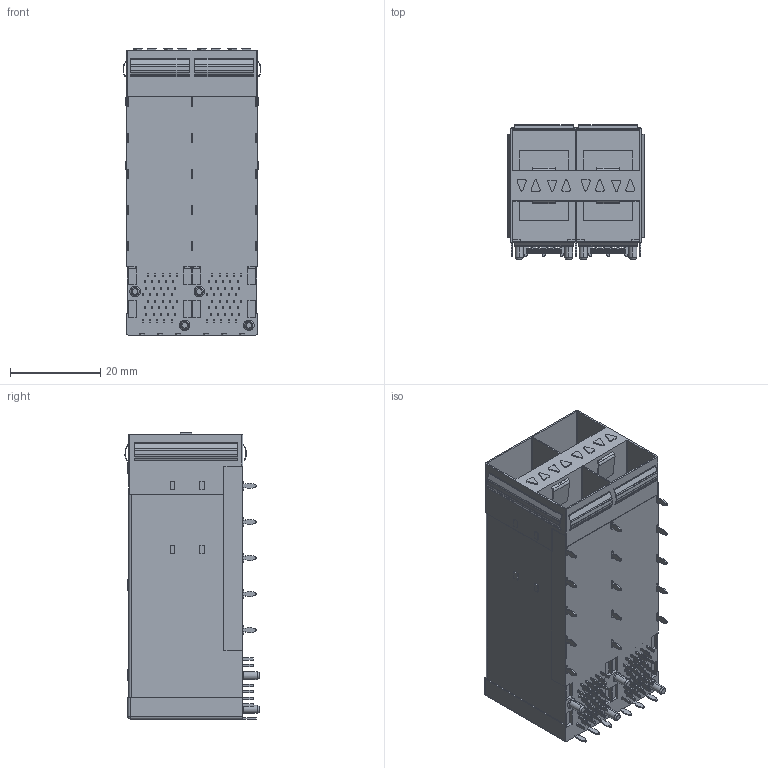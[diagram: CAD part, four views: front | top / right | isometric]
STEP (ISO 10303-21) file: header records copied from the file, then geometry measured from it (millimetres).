
FILE_DESCRIPTION (( 'STEP AP203' ), '1' );
FILE_NAME ('22201_SFP+ 2X2 囀俋絳嫖翐.STEP', '2024-06-05T00:25:41', ( '' ), ( '' ), 'SwSTEP 2.0', 'SolidWorks 2018', '' );
FILE_SCHEMA (( 'CONFIG_CONTROL_DESIGN' ));
Length unit declared in the file: millimetre
Products named in the file (1): 22201_SFP+ 2X2 囀俋絳嫖翐
Bounding box: 30.56 x 29.78 x 63.5 mm (x, y, z)
Volume: 23794.8 mm3; surface area: 19159.3 mm2
Topology: 1 solids, 1 shells, 1227 faces, 3429 edges, 2330 vertices
Faces by surface type: plane 885, cylinder 324, cone 16, sphere 2
Entity records: 39506 total; most frequent: CARTESIAN_POINT 6985, ORIENTED_EDGE 6854, DIRECTION 6551, EDGE_CURVE 3427, LINE 2759, VECTOR 2759, VERTEX_POINT 2330, AXIS2_PLACEMENT_3D 1896
